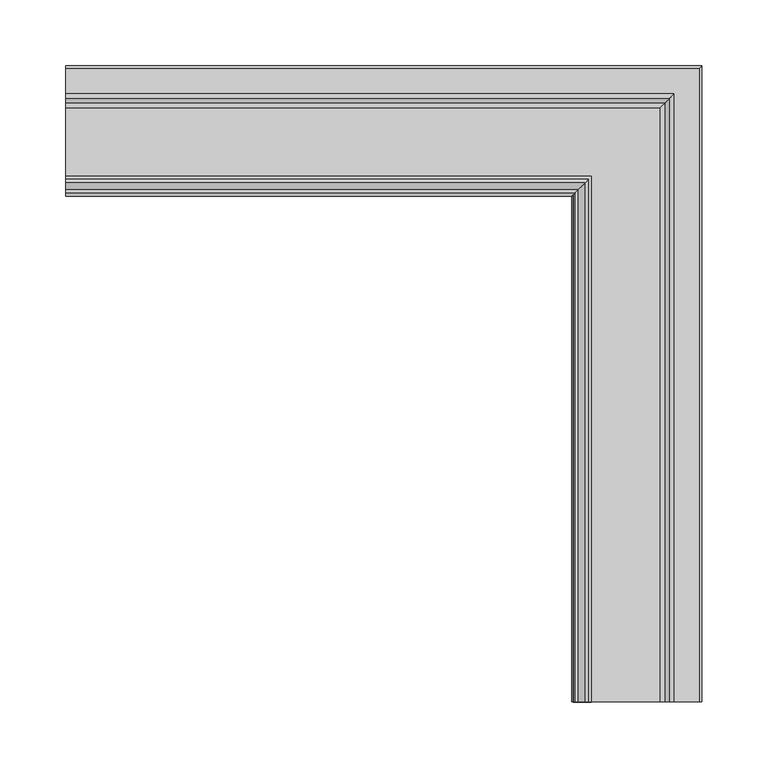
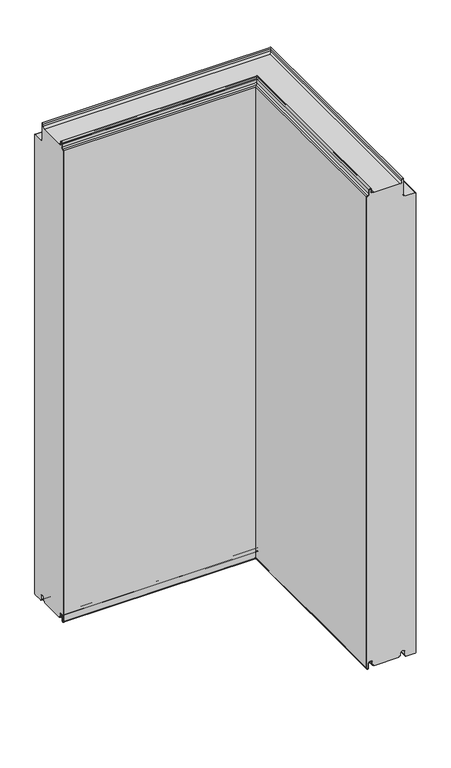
"""IFC4 building model written with IfcOpenShell, lengths in millimetres: plate geometry, Угловой модуль Fronttop : Угловой модуль Fronttop 100/1000."""

from ifc_helpers import new_model, si_unit, frame, origin, place, context, project, spatial, polyline, circle_curve, ellipse_curve, source, transform, mapped, element, save
from ifc_brep_helpers import plane_surface, cylinder_surface, revolved_surface, advanced_brep


def plate_d1008bc7(model_context):
    return source(origin(), model_context, "Body", "AdvancedBrep", [
        advanced_brep(
        [(-234.5, 15.0, 3.0), (-234.5, 13.0, 3.0), (-234.5, 12.0, 4.0), (-234.5, 12.0, 8.0), (-234.5, 3.0, 8.0), (-234.5, 3.0, -0.5), (-234.5, 1.0, -0.5), (-234.5, 1.0, 995.0278643), (-234.5, 2.1111111, 996.0216723), (-234.5, 6.0, 999.5), (-234.5, 6.0, 1008.0), (-234.5, 9.0, 1008.0), (-234.5, 9.0, 1004.0), (-234.5, 13.0, 1000.0), (-234.5, 67.0, 1000.0), (-234.5, 71.0, 1004.0), (-234.5, 71.0, 1008.0), (-234.5, 74.0, 1008.0), (-234.5, 74.0, 975.0), (-234.5, 78.0, 971.0), (-234.5, 97.0, 971.0), (-234.5, 99.0, 969.0), (-234.5, 99.0, 0.0), (-234.5, 97.0, -2.0), (-234.5, 79.0, -2.0), (-234.5, 77.0, 0.0), (-234.5, 77.0, 8.0), (-234.5, 68.0, 8.0), (-234.5, 68.0, 4.0), (-234.5, 67.0, 3.0), (-234.5, 65.0, 3.0), (-234.5, 65.0, 0.0), (-234.5, 15.0, 0.0), (165.0, 15.0, 0.0), (165.0, 15.0, 3.0), (215.0, 65.0, 0.0), (215.0, -384.5, 0.0), (165.0, -384.5, 0.0), (215.0, 65.0, 3.0), (217.0, 67.0, 3.0), (217.0, -384.5, 3.0), (215.0, -384.5, 3.0), (218.0, 68.0, 4.0), (218.0, 68.0, 8.0), (227.0, 77.0, 8.0), (227.0, 77.0, 0.0), (229.0, 79.0, -2.0), (247.0, 97.0, -2.0), (247.0, -384.5, -2.0), (229.0, -384.5, -2.0), (249.0, 99.0, 0.0), (249.0, 99.0, 969.0), (247.0, 97.0, 971.0), (228.0, 78.0, 971.0), (228.0, -384.5, 971.0), (247.0, -384.5, 971.0), (224.0, 74.0, 975.0), (224.0, 74.0, 1008.0), (221.0, 71.0, 1008.0), (221.0, 71.0, 1004.0), (217.0, 67.0, 1000.0), (163.0, 13.0, 1000.0), (163.0, -384.5, 1000.0), (217.0, -384.5, 1000.0), (159.0, 9.0, 1004.0), (159.0, 9.0, 1008.0), (156.0, 6.0, 1008.0), (156.0, 6.0, 999.5), (152.1111111, 2.1111111, 996.021672), (151.0, 1.0, 995.0278643), (151.0, 1.0, -0.5), (153.0, 3.0, -0.5), (153.0, 3.0, 8.0), (162.0, 12.0, 8.0), (162.0, 12.0, 4.0), (163.0, 13.0, 3.0), (165.0, -384.5, 3.0), (163.0, -384.5, 3.0), (218.0, -384.5, 4.0), (218.0, -384.5, 8.0), (227.0, -384.5, 8.0), (227.0, -384.5, 0.0), (249.0, -384.5, 0.0), (249.0, -384.5, 969.0), (224.0, -384.5, 975.0), (224.0, -384.5, 1008.0), (221.0, -384.5, 1008.0), (221.0, -384.5, 1004.0), (159.0, -384.5, 1004.0), (159.0, -384.5, 1008.0), (156.0, -384.5, 1008.0), (156.0, -384.5, 999.5), (152.1111111, -384.5, 996.021672), (151.0, -384.5, 995.0278643), (151.0, -384.5, -0.5), (153.0, -384.5, -0.5), (153.0, -384.5, 8.0), (162.0, -384.5, 8.0), (162.0, -384.5, 4.0)],
        [
            (0, 1),
            (1, 2, circle_curve(frame((-234.5, 13.0, 4.0), z_axis=(-1.0, 0.0, 0.0), x_axis=(0.0, -1.0, 0.0)), 1.0)),
            (2, 3),
            (3, 4, circle_curve(frame((-234.5, 7.5, 8.0), z_axis=(1.0, 0.0, 0.0), x_axis=(0.0, -1.0, 0.0)), 4.5)),
            (4, 5),
            (5, 6, circle_curve(frame((-234.5, 2.0, -0.5), z_axis=(-1.0, 0.0, 0.0), x_axis=(0.0, -1.0, 0.0)), 1.0)),
            (6, 7),
            (7, 8, circle_curve(frame((-234.5, 2.0, 995.0278643), z_axis=(-1.0, 0.0, 0.0), x_axis=(0.0, -1.0, 0.0)), 1.0)),
            (8, 9, circle_curve(frame((-234.5, 2.5, 999.5), z_axis=(1.0, 0.0, 0.0), x_axis=(0.0, -1.0, 0.0)), 3.5)),
            (9, 10),
            (10, 11, circle_curve(frame((-234.5, 7.5, 1008.0), z_axis=(-1.0, 0.0, 0.0), x_axis=(0.0, -1.0, 0.0)), 1.5)),
            (11, 12),
            (12, 13, circle_curve(frame((-234.5, 13.0, 1004.0), z_axis=(1.0, 0.0, 0.0), x_axis=(0.0, -1.0, 0.0)), 4.0)),
            (13, 14),
            (14, 15, circle_curve(frame((-234.5, 67.0, 1004.0), z_axis=(1.0, 0.0, 0.0), x_axis=(0.0, -1.0, 0.0)), 4.0)),
            (15, 16),
            (16, 17, circle_curve(frame((-234.5, 72.5, 1008.0), z_axis=(-1.0, 0.0, 0.0), x_axis=(0.0, -1.0, 0.0)), 1.5)),
            (17, 18),
            (18, 19, circle_curve(frame((-234.5, 78.0, 975.0), z_axis=(1.0, 0.0, 0.0), x_axis=(0.0, -1.0, 0.0)), 4.0)),
            (19, 20),
            (20, 21, circle_curve(frame((-234.5, 97.0, 969.0), z_axis=(-1.0, 0.0, 0.0), x_axis=(0.0, -1.0, 0.0)), 2.0)),
            (21, 22),
            (22, 23, circle_curve(frame((-234.5, 97.0, 0.0), z_axis=(-1.0, 0.0, 0.0), x_axis=(0.0, -1.0, 0.0)), 2.0)),
            (23, 24),
            (24, 25, circle_curve(frame((-234.5, 79.0, 0.0), z_axis=(-1.0, 0.0, 0.0), x_axis=(0.0, -1.0, 0.0)), 2.0)),
            (25, 26),
            (26, 27, circle_curve(frame((-234.5, 72.5, 8.0), z_axis=(1.0, 0.0, 0.0), x_axis=(0.0, -1.0, 0.0)), 4.5)),
            (27, 28),
            (28, 29, circle_curve(frame((-234.5, 67.0, 4.0), z_axis=(-1.0, 0.0, 0.0), x_axis=(0.0, -1.0, 0.0)), 1.0)),
            (29, 30),
            (30, 31),
            (31, 32),
            (32, 0),
            (32, 33),
            (33, 34),
            (34, 0),
            (31, 35),
            (35, 36),
            (36, 37),
            (37, 33),
            (30, 38),
            (38, 35),
            (29, 39),
            (39, 40),
            (40, 41),
            (41, 38),
            (28, 42),
            (42, 39, ellipse_curve(frame((217.0, 67.0, 4.0), z_axis=(-0.7071067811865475, 0.7071067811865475, 0.0), x_axis=(-0.7071067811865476, -0.7071067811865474, 0.0)), 1.4142136, 1.0)),
            (27, 43),
            (43, 42),
            (26, 44),
            (44, 43, ellipse_curve(frame((222.5, 72.5, 8.0), z_axis=(0.7071067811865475, -0.7071067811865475, 0.0), x_axis=(0.7071067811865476, 0.7071067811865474, 0.0)), 6.363961, 4.5)),
            (25, 45),
            (45, 44),
            (24, 46),
            (46, 45, ellipse_curve(frame((229.0, 79.0, 0.0), z_axis=(-0.7071067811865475, 0.7071067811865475, 0.0), x_axis=(-0.7071067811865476, -0.7071067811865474, 0.0)), 2.8284271, 2.0)),
            (23, 47),
            (47, 48),
            (48, 49),
            (49, 46),
            (22, 50),
            (50, 47, ellipse_curve(frame((247.0, 97.0, 0.0), z_axis=(-0.7071067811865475, 0.7071067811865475, 0.0), x_axis=(-0.7071067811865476, -0.7071067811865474, 0.0)), 2.8284271, 2.0)),
            (21, 51),
            (51, 50),
            (20, 52),
            (52, 51, ellipse_curve(frame((247.0, 97.0, 969.0), z_axis=(-0.7071067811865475, 0.7071067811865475, 0.0), x_axis=(-0.7071067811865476, -0.7071067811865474, 0.0)), 2.8284271, 2.0)),
            (19, 53),
            (53, 54),
            (54, 55),
            (55, 52),
            (18, 56),
            (56, 53, ellipse_curve(frame((228.0, 78.0, 975.0), z_axis=(0.7071067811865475, -0.7071067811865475, 0.0), x_axis=(0.7071067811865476, 0.7071067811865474, 0.0)), 5.6568542, 4.0)),
            (17, 57),
            (57, 56),
            (16, 58),
            (58, 57, ellipse_curve(frame((222.5, 72.5, 1008.0), z_axis=(-0.7071067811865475, 0.7071067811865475, 0.0), x_axis=(-0.7071067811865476, -0.7071067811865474, 0.0)), 2.1213203, 1.5)),
            (15, 59),
            (59, 58),
            (14, 60),
            (60, 59, ellipse_curve(frame((217.0, 67.0, 1004.0), z_axis=(0.7071067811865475, -0.7071067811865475, 0.0), x_axis=(0.7071067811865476, 0.7071067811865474, 0.0)), 5.6568542, 4.0)),
            (13, 61),
            (61, 62),
            (62, 63),
            (63, 60),
            (12, 64),
            (64, 61, ellipse_curve(frame((163.0, 13.0, 1004.0), z_axis=(0.7071067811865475, -0.7071067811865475, 0.0), x_axis=(0.7071067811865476, 0.7071067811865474, 0.0)), 5.6568542, 4.0)),
            (11, 65),
            (65, 64),
            (10, 66),
            (66, 65, ellipse_curve(frame((157.5, 7.5, 1008.0), z_axis=(-0.7071067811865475, 0.7071067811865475, 0.0), x_axis=(-0.7071067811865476, -0.7071067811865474, 0.0)), 2.1213204, 1.5)),
            (9, 67),
            (67, 66),
            (8, 68),
            (68, 67, ellipse_curve(frame((152.5, 2.5, 999.5), z_axis=(0.7071067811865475, -0.7071067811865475, 0.0), x_axis=(0.7071067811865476, 0.7071067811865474, 0.0)), 4.9497475, 3.5)),
            (7, 69),
            (69, 68, ellipse_curve(frame((152.0, 2.0, 995.0278643), z_axis=(-0.7071067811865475, 0.7071067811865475, 0.0), x_axis=(-0.7071067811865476, -0.7071067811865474, 0.0)), 1.4142136, 1.0)),
            (6, 70),
            (70, 69),
            (5, 71),
            (71, 70, ellipse_curve(frame((152.0, 2.0, -0.5), z_axis=(-0.7071067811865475, 0.7071067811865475, 0.0), x_axis=(-0.7071067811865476, -0.7071067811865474, 0.0)), 1.4142136, 1.0)),
            (4, 72),
            (72, 71),
            (3, 73),
            (73, 72, ellipse_curve(frame((157.5, 7.5, 8.0), z_axis=(0.7071067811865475, -0.7071067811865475, 0.0), x_axis=(0.7071067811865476, 0.7071067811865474, 0.0)), 6.363961, 4.5)),
            (2, 74),
            (74, 73),
            (1, 75),
            (75, 74, ellipse_curve(frame((163.0, 13.0, 4.0), z_axis=(-0.7071067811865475, 0.7071067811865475, 0.0), x_axis=(-0.7071067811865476, -0.7071067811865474, 0.0)), 1.4142136, 1.0)),
            (34, 76),
            (76, 77),
            (77, 75),
            (76, 37),
            (36, 41),
            (40, 78, circle_curve(frame((217.0, -384.5, 4.0), z_axis=(0.0, -1.0, 0.0), x_axis=(-1.0, 0.0, 0.0)), 1.0)),
            (78, 79),
            (79, 80, circle_curve(frame((222.5, -384.5, 8.0), z_axis=(0.0, 1.0, 0.0), x_axis=(-1.0, 0.0, 0.0)), 4.5)),
            (80, 81),
            (81, 49, circle_curve(frame((229.0, -384.5, 0.0), z_axis=(0.0, -1.0, 0.0), x_axis=(-1.0, 0.0, 0.0)), 2.0)),
            (48, 82, circle_curve(frame((247.0, -384.5, 0.0), z_axis=(0.0, -1.0, 0.0), x_axis=(-1.0, 0.0, 0.0)), 2.0)),
            (82, 83),
            (83, 55, circle_curve(frame((247.0, -384.5, 969.0), z_axis=(0.0, -1.0, 0.0), x_axis=(-1.0, 0.0, 0.0)), 2.0)),
            (54, 84, circle_curve(frame((228.0, -384.5, 975.0), z_axis=(0.0, 1.0, 0.0), x_axis=(-1.0, 0.0, 0.0)), 4.0)),
            (84, 85),
            (85, 86, circle_curve(frame((222.5, -384.5, 1008.0), z_axis=(0.0, -1.0, 0.0), x_axis=(-1.0, 0.0, 0.0)), 1.5)),
            (86, 87),
            (87, 63, circle_curve(frame((217.0, -384.5, 1004.0), z_axis=(0.0, 1.0, 0.0), x_axis=(-1.0, 0.0, 0.0)), 4.0)),
            (62, 88, circle_curve(frame((163.0, -384.5, 1004.0), z_axis=(0.0, 1.0, 0.0), x_axis=(-1.0, 0.0, 0.0)), 4.0)),
            (88, 89),
            (89, 90, circle_curve(frame((157.5, -384.5, 1008.0), z_axis=(0.0, -1.0, 0.0), x_axis=(-1.0, 0.0, 0.0)), 1.5)),
            (90, 91),
            (91, 92, circle_curve(frame((152.5, -384.5, 999.5), z_axis=(0.0, 1.0, 0.0), x_axis=(-1.0, 0.0, 0.0)), 3.5)),
            (92, 93, circle_curve(frame((152.0, -384.5, 995.0278643), z_axis=(0.0, -1.0, 0.0), x_axis=(-1.0, 0.0, 0.0)), 1.0)),
            (93, 94),
            (94, 95, circle_curve(frame((152.0, -384.5, -0.5), z_axis=(0.0, -1.0, 0.0), x_axis=(-1.0, 0.0, 0.0)), 1.0)),
            (95, 96),
            (96, 97, circle_curve(frame((157.5, -384.5, 8.0), z_axis=(0.0, 1.0, 0.0), x_axis=(-1.0, 0.0, 0.0)), 4.5)),
            (97, 98),
            (98, 77, circle_curve(frame((163.0, -384.5, 4.0), z_axis=(0.0, -1.0, 0.0), x_axis=(-1.0, 0.0, 0.0)), 1.0)),
            (42, 78),
            (43, 79),
            (44, 80),
            (45, 81),
            (50, 82),
            (51, 83),
            (56, 84),
            (57, 85),
            (58, 86),
            (59, 87),
            (64, 88),
            (65, 89),
            (66, 90),
            (67, 91),
            (68, 92),
            (69, 93),
            (70, 94),
            (71, 95),
            (72, 96),
            (73, 97),
            (74, 98),
        ],
        [
            plane_surface(frame((-234.5, 0.0, 0.0), z_axis=(-1.0, 0.0, 0.0), x_axis=(0.0, 0.0, 1.0))),
            plane_surface(frame((-234.5, 15.0, 0.0), z_axis=(0.0, -1.0, 0.0), x_axis=(1.0, 0.0, 0.0))),
            plane_surface(frame((-234.5, 65.0, 0.0), z_axis=(0.0, 0.0, -1.0), x_axis=(1.0, 0.0, 0.0))),
            plane_surface(frame((-234.5, 65.0, 3.0), z_axis=(0.0, 1.0, 0.0), x_axis=(1.0, 0.0, 0.0))),
            plane_surface(frame((-234.5, 67.0, 3.0), z_axis=(0.0, 0.0, -1.0), x_axis=(1.0, 0.0, 0.0))),
            cylinder_surface(frame((-234.5, 67.0, 4.0), z_axis=(-1.0, 0.0, 0.0), x_axis=(0.0, -1.0, 0.0)), 1.0),
            plane_surface(frame((-234.5, 68.0, 8.0), z_axis=(0.0, 1.0, 0.0), x_axis=(1.0, 0.0, 0.0))),
            revolved_surface(polyline([(227.0, 68.0, 8.0), (-234.5, 68.0, 8.0)]), (-234.5, 72.5, 8.0), (1.0, 0.0, 0.0)),
            plane_surface(frame((-234.5, 77.0, 0.0), z_axis=(0.0, -1.0, 0.0), x_axis=(1.0, 0.0, 0.0))),
            cylinder_surface(frame((-234.5, 79.0, 0.0), z_axis=(-1.0, 0.0, 0.0), x_axis=(0.0, -1.0, 0.0)), 2.0),
            plane_surface(frame((-234.5, 97.0, -2.0), z_axis=(0.0, 0.0, -1.0), x_axis=(1.0, 0.0, 0.0))),
            cylinder_surface(frame((-234.5, 97.0, 0.0), z_axis=(-1.0, 0.0, 0.0), x_axis=(0.0, -1.0, 0.0)), 2.0),
            plane_surface(frame((-234.5, 99.0, 969.0), z_axis=(0.0, 1.0, 0.0), x_axis=(1.0, 0.0, 0.0))),
            cylinder_surface(frame((-234.5, 97.0, 969.0), z_axis=(-1.0, 0.0, 0.0), x_axis=(0.0, -1.0, 0.0)), 2.0),
            plane_surface(frame((-234.5, 78.0, 971.0), z_axis=(0.0, 0.0, 1.0), x_axis=(1.0, 0.0, 0.0))),
            revolved_surface(polyline([(231.9999999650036, 74.0, 975.0), (-234.5, 74.0, 975.0)]), (-234.5, 78.0, 975.0), (1.0, 0.0, 0.0)),
            plane_surface(frame((-234.5, 74.0, 1008.0), z_axis=(0.0, 1.0, 0.0), x_axis=(1.0, 0.0, 0.0))),
            cylinder_surface(frame((-234.5, 72.5, 1008.0), z_axis=(-1.0, 0.0, 0.0), x_axis=(0.0, -1.0, 0.0)), 1.5),
            plane_surface(frame((-234.5, 71.0, 1004.0), z_axis=(0.0, -1.0, 0.0), x_axis=(1.0, 0.0, 0.0))),
            revolved_surface(polyline([(221.0, 63.0, 1004.0), (-234.5, 63.0, 1004.0)]), (-234.5, 67.0, 1004.0), (1.0, 0.0, 0.0)),
            plane_surface(frame((-234.5, 13.0, 1000.0), z_axis=(0.0, 0.0, 1.0), x_axis=(1.0, 0.0, 0.0))),
            revolved_surface(polyline([(166.9999999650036, 9.0, 1004.0), (-234.5, 9.0, 1004.0)]), (-234.5, 13.0, 1004.0), (1.0, 0.0, 0.0)),
            plane_surface(frame((-234.5, 9.0, 1008.0), z_axis=(0.0, 1.0, 0.0), x_axis=(1.0, 0.0, 0.0))),
            cylinder_surface(frame((-234.5, 7.5, 1008.0), z_axis=(-1.0, 0.0, 0.0), x_axis=(0.0, -1.0, 0.0)), 1.5),
            plane_surface(frame((-234.5, 6.0, 999.5), z_axis=(0.0, -1.0, 0.0), x_axis=(1.0, 0.0, 0.0))),
            revolved_surface(polyline([(156.00000002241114, -1.0, 999.5), (-234.5, -1.0, 999.5)]), (-234.5, 2.5, 999.5), (1.0, 0.0, 0.0)),
            cylinder_surface(frame((-234.5, 2.0, 995.0278643), z_axis=(-1.0, 0.0, 0.0), x_axis=(0.0, -1.0, 0.0)), 1.0),
            plane_surface(frame((-234.5, 1.0, -0.5), z_axis=(0.0, -1.0, 0.0), x_axis=(1.0, 0.0, 0.0))),
            cylinder_surface(frame((-234.5, 2.0, -0.5), z_axis=(-1.0, 0.0, 0.0), x_axis=(0.0, -1.0, 0.0)), 1.0),
            plane_surface(frame((-234.5, 3.0, 8.0), z_axis=(0.0, 1.0, 0.0), x_axis=(1.0, 0.0, 0.0))),
            revolved_surface(polyline([(162.0, 3.0, 8.0), (-234.5, 3.0, 8.0)]), (-234.5, 7.5, 8.0), (1.0, 0.0, 0.0)),
            plane_surface(frame((-234.5, 12.0, 4.0), z_axis=(0.0, -1.0, 0.0), x_axis=(1.0, 0.0, 0.0))),
            cylinder_surface(frame((-234.5, 13.0, 4.0), z_axis=(-1.0, 0.0, 0.0), x_axis=(0.0, -1.0, 0.0)), 1.0),
            plane_surface(frame((-234.5, 15.0, 3.0), z_axis=(0.0, 0.0, -1.0), x_axis=(1.0, 0.0, 0.0))),
            plane_surface(frame((150.0, -384.5, 0.0), z_axis=(0.0, -1.0, 0.0), x_axis=(0.0, 0.0, 1.0))),
            plane_surface(frame((165.0, 15.0, 0.0), z_axis=(-1.0, 0.0, 0.0), x_axis=(0.0, -1.0, 0.0))),
            plane_surface(frame((215.0, 65.0, 3.0), z_axis=(1.0, 0.0, 0.0), x_axis=(0.0, -1.0, 0.0))),
            cylinder_surface(frame((217.0, 0.0, 4.0), z_axis=(0.0, 1.0, 0.0), x_axis=(-1.0, 0.0, 0.0)), 1.0),
            plane_surface(frame((218.0, 68.0, 8.0), z_axis=(1.0, 0.0, 0.0), x_axis=(0.0, -1.0, 0.0))),
            revolved_surface(polyline([(218.0, -384.5, 8.0), (218.0, 77.0, 8.0)]), (222.5, 0.0, 8.0), (0.0, -1.0, 0.0)),
            plane_surface(frame((227.0, 77.0, 0.0), z_axis=(-1.0, 0.0, 0.0), x_axis=(0.0, -1.0, 0.0))),
            cylinder_surface(frame((229.0, 0.0, 0.0), z_axis=(0.0, 1.0, 0.0), x_axis=(-1.0, 0.0, 0.0)), 2.0),
            cylinder_surface(frame((247.0, 0.0, 0.0), z_axis=(0.0, 1.0, 0.0), x_axis=(-1.0, 0.0, 0.0)), 2.0),
            plane_surface(frame((249.0, 99.0, 969.0), z_axis=(1.0, 0.0, 0.0), x_axis=(0.0, -1.0, 0.0))),
            cylinder_surface(frame((247.0, 0.0, 969.0), z_axis=(0.0, 1.0, 0.0), x_axis=(-1.0, 0.0, 0.0)), 2.0),
            revolved_surface(polyline([(224.0, -384.5, 975.0), (224.0, 81.9999999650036, 975.0)]), (228.0, 0.0, 975.0), (0.0, -1.0, 0.0)),
            plane_surface(frame((224.0, 74.0, 1008.0), z_axis=(1.0, 0.0, 0.0), x_axis=(0.0, -1.0, 0.0))),
            cylinder_surface(frame((222.5, 0.0, 1008.0), z_axis=(0.0, 1.0, 0.0), x_axis=(-1.0, 0.0, 0.0)), 1.5),
            plane_surface(frame((221.0, 71.0, 1004.0), z_axis=(-1.0, 0.0, 0.0), x_axis=(0.0, -1.0, 0.0))),
            revolved_surface(polyline([(213.0, -384.5, 1004.0), (213.0, 71.0, 1004.0)]), (217.0, 0.0, 1004.0), (0.0, -1.0, 0.0)),
            revolved_surface(polyline([(159.0, -384.5, 1004.0), (159.0, 16.999999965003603, 1004.0)]), (163.0, 0.0, 1004.0), (0.0, -1.0, 0.0)),
            plane_surface(frame((159.0, 9.0, 1008.0), z_axis=(1.0, 0.0, 0.0), x_axis=(0.0, -1.0, 0.0))),
            cylinder_surface(frame((157.5, 0.0, 1008.0), z_axis=(0.0, 1.0, 0.0), x_axis=(-1.0, 0.0, 0.0)), 1.5),
            plane_surface(frame((156.0, 6.0, 999.5), z_axis=(-1.0, 0.0, 0.0), x_axis=(0.0, -1.0, 0.0))),
            revolved_surface(polyline([(149.0, -384.5, 999.5), (149.0, 6.000000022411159, 999.5)]), (152.5, 0.0, 999.5), (0.0, -1.0, 0.0)),
            cylinder_surface(frame((152.0, 0.0, 995.0278643), z_axis=(0.0, 1.0, 0.0), x_axis=(-1.0, 0.0, 0.0)), 1.0),
            plane_surface(frame((151.0, 1.0, -0.5), z_axis=(-1.0, 0.0, 0.0), x_axis=(0.0, -1.0, 0.0))),
            cylinder_surface(frame((152.0, 0.0, -0.5), z_axis=(0.0, 1.0, 0.0), x_axis=(-1.0, 0.0, 0.0)), 1.0),
            plane_surface(frame((153.0, 3.0, 8.0), z_axis=(1.0, 0.0, 0.0), x_axis=(0.0, -1.0, 0.0))),
            revolved_surface(polyline([(153.0, -384.5, 8.0), (153.0, 12.0, 8.0)]), (157.5, 0.0, 8.0), (0.0, -1.0, 0.0)),
            plane_surface(frame((162.0, 12.0, 4.0), z_axis=(-1.0, 0.0, 0.0), x_axis=(0.0, -1.0, 0.0))),
            cylinder_surface(frame((163.0, 0.0, 4.0), z_axis=(0.0, 1.0, 0.0), x_axis=(-1.0, 0.0, 0.0)), 1.0),
        ],
        [
            (0, [[1, 2, 3, 4, 5, 6, 7, 8, 9, 10, 11, 12, 13, 14, 15, 16, 17, 18, 19, 20, 21, 22, 23, 24, 25, 26, 27, 28, 29, 30, 31, 32, 33]]),
            (1, [[-33, 34, 35, 36]]),
            (2, [[-32, 37, 38, 39, 40, -34]]),
            (3, [[-31, 41, 42, -37]]),
            (4, [[-30, 43, 44, 45, 46, -41]]),
            (5, [[-29, 47, 48, -43]]),
            (6, [[-28, 49, 50, -47]]),
            (7, [[-27, 51, 52, -49]]),
            (8, [[-26, 53, 54, -51]]),
            (9, [[-25, 55, 56, -53]]),
            (10, [[-24, 57, 58, 59, 60, -55]]),
            (11, [[-23, 61, 62, -57]]),
            (12, [[-22, 63, 64, -61]]),
            (13, [[-21, 65, 66, -63]]),
            (14, [[-20, 67, 68, 69, 70, -65]]),
            (15, [[-19, 71, 72, -67]]),
            (16, [[-18, 73, 74, -71]]),
            (17, [[-17, 75, 76, -73]]),
            (18, [[-16, 77, 78, -75]]),
            (19, [[-15, 79, 80, -77]]),
            (20, [[-14, 81, 82, 83, 84, -79]]),
            (21, [[-13, 85, 86, -81]]),
            (22, [[-12, 87, 88, -85]]),
            (23, [[-11, 89, 90, -87]]),
            (24, [[-10, 91, 92, -89]]),
            (25, [[-9, 93, 94, -91]]),
            (26, [[-8, 95, 96, -93]]),
            (27, [[-7, 97, 98, -95]]),
            (28, [[-6, 99, 100, -97]]),
            (29, [[-5, 101, 102, -99]]),
            (30, [[-4, 103, 104, -101]]),
            (31, [[-3, 105, 106, -103]]),
            (32, [[-2, 107, 108, -105]]),
            (33, [[-1, -36, 109, 110, 111, -107]]),
            (34, [[112, -39, 113, -45, 114, 115, 116, 117, 118, -59, 119, 120, 121, -69, 122, 123, 124, 125, 126, -83, 127, 128, 129, 130, 131, 132, 133, 134, 135, 136, 137, 138, -110]]),
            (35, [[-35, -40, -112, -109]]),
            (36, [[-42, -46, -113, -38]]),
            (37, [[-48, 139, -114, -44]]),
            (38, [[-50, 140, -115, -139]]),
            (39, [[-52, 141, -116, -140]]),
            (40, [[-54, 142, -117, -141]]),
            (41, [[-56, -60, -118, -142]]),
            (42, [[-62, 143, -119, -58]]),
            (43, [[-64, 144, -120, -143]]),
            (44, [[-66, -70, -121, -144]]),
            (45, [[-72, 145, -122, -68]]),
            (46, [[-74, 146, -123, -145]]),
            (47, [[-76, 147, -124, -146]]),
            (48, [[-78, 148, -125, -147]]),
            (49, [[-80, -84, -126, -148]]),
            (50, [[-86, 149, -127, -82]]),
            (51, [[-88, 150, -128, -149]]),
            (52, [[-90, 151, -129, -150]]),
            (53, [[-92, 152, -130, -151]]),
            (54, [[-94, 153, -131, -152]]),
            (55, [[-96, 154, -132, -153]]),
            (56, [[-98, 155, -133, -154]]),
            (57, [[-100, 156, -134, -155]]),
            (58, [[-102, 157, -135, -156]]),
            (59, [[-104, 158, -136, -157]]),
            (60, [[-106, 159, -137, -158]]),
            (61, [[-108, -111, -138, -159]]),
        ],
    ),
        advanced_brep(
        [(-234.5, 13.0, 1001.0), (-234.5, 15.0, 1001.0), (-234.5, 15.0, 1000.0), (-234.5, 13.0, 1000.0), (-234.5, 9.0, 1004.0), (-234.5, 9.0, 1008.0), (-234.5, 6.0, 1008.0), (-234.5, 6.0, 999.5), (-234.5, 2.1134897, 996.0214069), (-234.5, 1.0, 995.0), (-234.5, 1.0, -0.5), (-234.5, 3.0, -0.5), (-234.5, 3.0, 8.0), (-234.5, 12.0, 8.0), (-234.5, 12.0, 4.0), (-234.5, 13.0, 3.0), (-234.5, 15.0, 3.0), (-234.5, 15.0, 2.0), (-234.5, 13.0, 2.0), (-234.5, 11.0, 4.0), (-234.5, 11.0, 8.0), (-234.5, 4.0, 8.0), (-234.5, 4.0, -0.5), (-234.5, 0.0, -0.5), (-234.5, 0.0, 995.0), (-234.5, 2.220863, 996.9877675), (-234.5, 5.0, 999.5), (-234.5, 5.0, 1008.0), (-234.5, 10.0, 1008.0), (-234.5, 10.0, 1004.0), (163.0, 13.0, 1001.0), (163.0, -384.5, 1001.0), (165.0, -384.5, 1001.0), (165.0, 15.0, 1001.0), (165.0, 15.0, 1000.0), (165.0, -384.5, 1000.0), (163.0, -384.5, 1000.0), (163.0, 13.0, 1000.0), (159.0, 9.0, 1004.0), (159.0, 9.0, 1008.0), (156.0, 6.0, 1008.0), (156.0, 6.0, 999.5), (152.1134897, 2.1134897, 996.0214069), (151.0, 1.0, 995.0), (151.0, 1.0, -0.5), (153.0, 3.0, -0.5), (153.0, 3.0, 8.0), (162.0, 12.0, 8.0), (162.0, 12.0, 4.0), (163.0, 13.0, 3.0), (163.0, -384.5, 3.0), (165.0, -384.5, 3.0), (165.0, 15.0, 3.0), (165.0, 15.0, 2.0), (165.0, -384.5, 2.0), (163.0, -384.5, 2.0), (163.0, 13.0, 2.0), (161.0, 11.0, 4.0), (161.0, 11.0, 8.0), (154.0, 4.0, 8.0), (154.0, 4.0, -0.5), (150.0, 0.0, -0.5), (150.0, 0.0, 995.0), (152.220863, 2.220863, 996.9877675), (155.0, 5.0, 999.5), (155.0, 5.0, 1008.0), (160.0, 10.0, 1008.0), (160.0, 10.0, 1004.0), (160.0, -384.5, 1004.0), (160.0, -384.5, 1008.0), (155.0, -384.5, 1008.0), (155.0, -384.5, 999.5), (152.2239212, -384.5, 997.0152907), (150.0, -384.5, 995.0), (150.0, -384.5, -0.5), (154.0, -384.5, -0.5), (154.0, -384.5, 8.0), (161.0, -384.5, 8.0), (161.0, -384.5, 4.0), (162.0, -384.5, 4.0), (162.0, -384.5, 8.0), (153.0, -384.5, 8.0), (153.0, -384.5, -0.5), (151.0, -384.5, -0.5), (151.0, -384.5, 995.0), (152.1104315, -384.5, 995.9938837), (156.0, -384.5, 999.5), (156.0, -384.5, 1008.0), (159.0, -384.5, 1008.0), (159.0, -384.5, 1004.0)],
        [
            (0, 1),
            (1, 2),
            (2, 3),
            (3, 4, circle_curve(frame((-234.5, 13.0, 1004.0), z_axis=(-1.0, 0.0, 0.0), x_axis=(0.0, -1.0, 0.0)), 4.0)),
            (4, 5),
            (5, 6, circle_curve(frame((-234.5, 7.5, 1008.0), z_axis=(1.0, 0.0, 0.0), x_axis=(0.0, -1.0, 0.0)), 1.5)),
            (6, 7),
            (7, 8, circle_curve(frame((-234.5, 2.5, 999.5), z_axis=(-1.0, 0.0, 0.0), x_axis=(0.0, -1.0, 0.0)), 3.5)),
            (8, 9, circle_curve(frame((-234.5, 2.0, 995.0), z_axis=(1.0, 0.0, 0.0), x_axis=(0.0, -1.0, 0.0)), 1.0)),
            (9, 10),
            (10, 11, circle_curve(frame((-234.5, 2.0, -0.5), z_axis=(1.0, 0.0, 0.0), x_axis=(0.0, -1.0, 0.0)), 1.0)),
            (11, 12),
            (12, 13, circle_curve(frame((-234.5, 7.5, 8.0), z_axis=(-1.0, 0.0, 0.0), x_axis=(0.0, -1.0, 0.0)), 4.5)),
            (13, 14),
            (14, 15, circle_curve(frame((-234.5, 13.0, 4.0), z_axis=(1.0, 0.0, 0.0), x_axis=(0.0, -1.0, 0.0)), 1.0)),
            (15, 16),
            (16, 17),
            (17, 18),
            (18, 19, circle_curve(frame((-234.5, 13.0, 4.0), z_axis=(-1.0, 0.0, 0.0), x_axis=(0.0, -1.0, 0.0)), 2.0)),
            (19, 20),
            (20, 21, circle_curve(frame((-234.5, 7.5, 8.0), z_axis=(1.0, 0.0, 0.0), x_axis=(0.0, -1.0, 0.0)), 3.5)),
            (21, 22),
            (22, 23, circle_curve(frame((-234.5, 2.0, -0.5), z_axis=(-1.0, 0.0, 0.0), x_axis=(0.0, -1.0, 0.0)), 2.0)),
            (23, 24),
            (24, 25, circle_curve(frame((-234.5, 2.0, 995.0), z_axis=(-1.0, 0.0, 0.0), x_axis=(0.0, -1.0, 0.0)), 2.0)),
            (25, 26, circle_curve(frame((-234.5, 2.5, 999.5), z_axis=(1.0, 0.0, 0.0), x_axis=(0.0, -1.0, 0.0)), 2.5)),
            (26, 27),
            (27, 28, circle_curve(frame((-234.5, 7.5, 1008.0), z_axis=(-1.0, 0.0, 0.0), x_axis=(0.0, -1.0, 0.0)), 2.5)),
            (28, 29),
            (29, 0, circle_curve(frame((-234.5, 13.0, 1004.0), z_axis=(1.0, 0.0, 0.0), x_axis=(0.0, -1.0, 0.0)), 3.0)),
            (0, 30),
            (30, 31),
            (31, 32),
            (32, 33),
            (33, 1),
            (33, 34),
            (34, 2),
            (34, 35),
            (35, 36),
            (36, 37),
            (37, 3),
            (37, 38, ellipse_curve(frame((163.0, 13.0, 1004.0), z_axis=(-0.7071067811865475, 0.7071067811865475, 0.0), x_axis=(-0.7071067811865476, -0.7071067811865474, 0.0)), 5.6568542, 4.0)),
            (38, 4),
            (38, 39),
            (39, 5),
            (39, 40, ellipse_curve(frame((157.5, 7.5, 1008.0), z_axis=(0.7071067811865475, -0.7071067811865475, 0.0), x_axis=(0.7071067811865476, 0.7071067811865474, 0.0)), 2.1213204, 1.5)),
            (40, 6),
            (40, 41),
            (41, 7),
            (41, 42, ellipse_curve(frame((152.5, 2.5, 999.5), z_axis=(-0.7071067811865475, 0.7071067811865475, 0.0), x_axis=(-0.7071067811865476, -0.7071067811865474, 0.0)), 4.9497475, 3.5)),
            (42, 8),
            (42, 43, ellipse_curve(frame((152.0, 2.0, 995.0), z_axis=(0.7071067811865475, -0.7071067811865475, 0.0), x_axis=(0.7071067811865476, 0.7071067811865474, 0.0)), 1.4142136, 1.0)),
            (43, 9),
            (43, 44),
            (44, 10),
            (44, 45, ellipse_curve(frame((152.0, 2.0, -0.5), z_axis=(0.7071067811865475, -0.7071067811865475, 0.0), x_axis=(0.7071067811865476, 0.7071067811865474, 0.0)), 1.4142136, 1.0)),
            (45, 11),
            (45, 46),
            (46, 12),
            (46, 47, ellipse_curve(frame((157.5, 7.5, 8.0), z_axis=(-0.7071067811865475, 0.7071067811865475, 0.0), x_axis=(-0.7071067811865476, -0.7071067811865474, 0.0)), 6.363961, 4.5)),
            (47, 13),
            (47, 48),
            (48, 14),
            (48, 49, ellipse_curve(frame((163.0, 13.0, 4.0), z_axis=(0.7071067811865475, -0.7071067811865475, 0.0), x_axis=(0.7071067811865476, 0.7071067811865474, 0.0)), 1.4142136, 1.0)),
            (49, 15),
            (49, 50),
            (50, 51),
            (51, 52),
            (52, 16),
            (52, 53),
            (53, 17),
            (53, 54),
            (54, 55),
            (55, 56),
            (56, 18),
            (56, 57, ellipse_curve(frame((163.0, 13.0, 4.0), z_axis=(-0.7071067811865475, 0.7071067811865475, 0.0), x_axis=(-0.7071067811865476, -0.7071067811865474, 0.0)), 2.8284271, 2.0)),
            (57, 19),
            (57, 58),
            (58, 20),
            (58, 59, ellipse_curve(frame((157.5, 7.5, 8.0), z_axis=(0.7071067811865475, -0.7071067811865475, 0.0), x_axis=(0.7071067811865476, 0.7071067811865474, 0.0)), 4.9497475, 3.5)),
            (59, 21),
            (59, 60),
            (60, 22),
            (60, 61, ellipse_curve(frame((152.0, 2.0, -0.5), z_axis=(-0.7071067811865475, 0.7071067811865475, 0.0), x_axis=(-0.7071067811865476, -0.7071067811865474, 0.0)), 2.8284271, 2.0)),
            (61, 23),
            (61, 62),
            (62, 24),
            (62, 63, ellipse_curve(frame((152.0, 2.0, 995.0), z_axis=(-0.7071067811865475, 0.7071067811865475, 0.0), x_axis=(-0.7071067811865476, -0.7071067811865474, 0.0)), 2.8284271, 2.0)),
            (63, 25),
            (63, 64, ellipse_curve(frame((152.5, 2.5, 999.5), z_axis=(0.7071067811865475, -0.7071067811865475, 0.0), x_axis=(0.7071067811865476, 0.7071067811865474, 0.0)), 3.5355339, 2.5)),
            (64, 26),
            (64, 65),
            (65, 27),
            (65, 66, ellipse_curve(frame((157.5, 7.5, 1008.0), z_axis=(-0.7071067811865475, 0.7071067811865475, 0.0), x_axis=(-0.7071067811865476, -0.7071067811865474, 0.0)), 3.5355339, 2.5)),
            (66, 28),
            (66, 67),
            (67, 29),
            (67, 30, ellipse_curve(frame((163.0, 13.0, 1004.0), z_axis=(0.7071067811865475, -0.7071067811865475, 0.0), x_axis=(0.7071067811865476, 0.7071067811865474, 0.0)), 4.2426407, 3.0)),
            (31, 68, circle_curve(frame((163.0, -384.5, 1004.0), z_axis=(0.0, 1.0, 0.0), x_axis=(-1.0, 0.0, 0.0)), 3.0)),
            (68, 69),
            (69, 70, circle_curve(frame((157.5, -384.5, 1008.0), z_axis=(0.0, -1.0, 0.0), x_axis=(-1.0, 0.0, 0.0)), 2.5)),
            (70, 71),
            (71, 72, circle_curve(frame((152.5, -384.5, 999.5), z_axis=(0.0, 1.0, 0.0), x_axis=(-1.0, 0.0, 0.0)), 2.5)),
            (72, 73, circle_curve(frame((152.0, -384.5, 995.0), z_axis=(0.0, -1.0, 0.0), x_axis=(-1.0, 0.0, 0.0)), 2.0)),
            (73, 74),
            (74, 75, circle_curve(frame((152.0, -384.5, -0.5), z_axis=(0.0, -1.0, 0.0), x_axis=(-1.0, 0.0, 0.0)), 2.0)),
            (75, 76),
            (76, 77, circle_curve(frame((157.5, -384.5, 8.0), z_axis=(0.0, 1.0, 0.0), x_axis=(-1.0, 0.0, 0.0)), 3.5)),
            (77, 78),
            (78, 55, circle_curve(frame((163.0, -384.5, 4.0), z_axis=(0.0, -1.0, 0.0), x_axis=(-1.0, 0.0, 0.0)), 2.0)),
            (54, 51),
            (50, 79, circle_curve(frame((163.0, -384.5, 4.0), z_axis=(0.0, 1.0, 0.0), x_axis=(-1.0, 0.0, 0.0)), 1.0)),
            (79, 80),
            (80, 81, circle_curve(frame((157.5, -384.5, 8.0), z_axis=(0.0, -1.0, 0.0), x_axis=(-1.0, 0.0, 0.0)), 4.5)),
            (81, 82),
            (82, 83, circle_curve(frame((152.0, -384.5, -0.5), z_axis=(0.0, 1.0, 0.0), x_axis=(-1.0, 0.0, 0.0)), 1.0)),
            (83, 84),
            (84, 85, circle_curve(frame((152.0, -384.5, 995.0), z_axis=(0.0, 1.0, 0.0), x_axis=(-1.0, 0.0, 0.0)), 1.0)),
            (85, 86, circle_curve(frame((152.5, -384.5, 999.5), z_axis=(0.0, -1.0, 0.0), x_axis=(-1.0, 0.0, 0.0)), 3.5)),
            (86, 87),
            (87, 88, circle_curve(frame((157.5, -384.5, 1008.0), z_axis=(0.0, 1.0, 0.0), x_axis=(-1.0, 0.0, 0.0)), 1.5)),
            (88, 89),
            (89, 36, circle_curve(frame((163.0, -384.5, 1004.0), z_axis=(0.0, -1.0, 0.0), x_axis=(-1.0, 0.0, 0.0)), 4.0)),
            (35, 32),
            (89, 38),
            (88, 39),
            (87, 40),
            (86, 41),
            (85, 42),
            (84, 43),
            (83, 44),
            (82, 45),
            (81, 46),
            (80, 47),
            (79, 48),
            (78, 57),
            (77, 58),
            (76, 59),
            (75, 60),
            (74, 61),
            (73, 62),
            (72, 63),
            (71, 64),
            (70, 65),
            (69, 66),
            (68, 67),
        ],
        [
            plane_surface(frame((-234.5, 0.0, 0.0), z_axis=(-1.0, 0.0, 0.0), x_axis=(0.0, 0.0, 1.0))),
            plane_surface(frame((-234.5, 13.0, 1001.0), z_axis=(0.0, 0.0, 1.0), x_axis=(1.0, 0.0, 0.0))),
            plane_surface(frame((-234.5, 15.0, 1001.0), z_axis=(0.0, 1.0, 0.0), x_axis=(1.0, 0.0, 0.0))),
            plane_surface(frame((-234.5, 15.0, 1000.0), z_axis=(0.0, 0.0, -1.0), x_axis=(1.0, 0.0, 0.0))),
            cylinder_surface(frame((-234.5, 13.0, 1004.0), z_axis=(-1.0, 0.0, 0.0), x_axis=(0.0, -1.0, 0.0)), 4.0),
            plane_surface(frame((-234.5, 9.0, 1004.0), z_axis=(0.0, -1.0, 0.0), x_axis=(1.0, 0.0, 0.0))),
            revolved_surface(polyline([(159.00000003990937, 6.0, 1008.0), (-234.5, 6.0, 1008.0)]), (-234.5, 7.5, 1008.0), (1.0, 0.0, 0.0)),
            plane_surface(frame((-234.5, 6.0, 1008.0), z_axis=(0.0, 1.0, 0.0), x_axis=(1.0, 0.0, 0.0))),
            cylinder_surface(frame((-234.5, 2.5, 999.5), z_axis=(-1.0, 0.0, 0.0), x_axis=(0.0, -1.0, 0.0)), 3.5),
            revolved_surface(polyline([(153.00000002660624, 1.0, 995.0), (-234.5, 1.0, 995.0)]), (-234.5, 2.0, 995.0), (1.0, 0.0, 0.0)),
            plane_surface(frame((-234.5, 1.0, 995.0), z_axis=(0.0, 1.0, 0.0), x_axis=(1.0, 0.0, 0.0))),
            revolved_surface(polyline([(153.00000002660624, 1.0, -0.5), (-234.5, 1.0, -0.5)]), (-234.5, 2.0, -0.5), (1.0, 0.0, 0.0)),
            plane_surface(frame((-234.5, 3.0, -0.5), z_axis=(0.0, -1.0, 0.0), x_axis=(1.0, 0.0, 0.0))),
            cylinder_surface(frame((-234.5, 7.5, 8.0), z_axis=(-1.0, 0.0, 0.0), x_axis=(0.0, -1.0, 0.0)), 4.5),
            plane_surface(frame((-234.5, 12.0, 8.0), z_axis=(0.0, 1.0, 0.0), x_axis=(1.0, 0.0, 0.0))),
            revolved_surface(polyline([(164.00000002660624, 12.0, 4.0), (-234.5, 12.0, 4.0)]), (-234.5, 13.0, 4.0), (1.0, 0.0, 0.0)),
            plane_surface(frame((-234.5, 13.0, 3.0), z_axis=(0.0, 0.0, 1.0), x_axis=(1.0, 0.0, 0.0))),
            plane_surface(frame((-234.5, 15.0, 3.0), z_axis=(0.0, 1.0, 0.0), x_axis=(1.0, 0.0, 0.0))),
            plane_surface(frame((-234.5, 15.0, 2.0), z_axis=(0.0, 0.0, -1.0), x_axis=(1.0, 0.0, 0.0))),
            cylinder_surface(frame((-234.5, 13.0, 4.0), z_axis=(-1.0, 0.0, 0.0), x_axis=(0.0, -1.0, 0.0)), 2.0),
            plane_surface(frame((-234.5, 11.0, 4.0), z_axis=(0.0, -1.0, 0.0), x_axis=(1.0, 0.0, 0.0))),
            revolved_surface(polyline([(161.00000002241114, 4.0, 8.0), (-234.5, 4.0, 8.0)]), (-234.5, 7.5, 8.0), (1.0, 0.0, 0.0)),
            plane_surface(frame((-234.5, 4.0, 8.0), z_axis=(0.0, 1.0, 0.0), x_axis=(1.0, 0.0, 0.0))),
            cylinder_surface(frame((-234.5, 2.0, -0.5), z_axis=(-1.0, 0.0, 0.0), x_axis=(0.0, -1.0, 0.0)), 2.0),
            plane_surface(frame((-234.5, 0.0, -0.5), z_axis=(0.0, -1.0, 0.0), x_axis=(1.0, 0.0, 0.0))),
            cylinder_surface(frame((-234.5, 2.0, 995.0), z_axis=(-1.0, 0.0, 0.0), x_axis=(0.0, -1.0, 0.0)), 2.0),
            revolved_surface(polyline([(155.0, 0.0, 999.5), (-234.5, 0.0, 999.5)]), (-234.5, 2.5, 999.5), (1.0, 0.0, 0.0)),
            plane_surface(frame((-234.5, 5.0, 999.5), z_axis=(0.0, -1.0, 0.0), x_axis=(1.0, 0.0, 0.0))),
            cylinder_surface(frame((-234.5, 7.5, 1008.0), z_axis=(-1.0, 0.0, 0.0), x_axis=(0.0, -1.0, 0.0)), 2.5),
            plane_surface(frame((-234.5, 10.0, 1008.0), z_axis=(0.0, 1.0, 0.0), x_axis=(1.0, 0.0, 0.0))),
            revolved_surface(polyline([(166.00000000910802, 10.0, 1004.0), (-234.5, 10.0, 1004.0)]), (-234.5, 13.0, 1004.0), (1.0, 0.0, 0.0)),
            plane_surface(frame((150.0, -384.5, 0.0), z_axis=(0.0, -1.0, 0.0), x_axis=(0.0, 0.0, 1.0))),
            plane_surface(frame((165.0, 15.0, 1001.0), z_axis=(1.0, 0.0, 0.0), x_axis=(0.0, -1.0, 0.0))),
            cylinder_surface(frame((163.0, 0.0, 1004.0), z_axis=(0.0, 1.0, 0.0), x_axis=(-1.0, 0.0, 0.0)), 4.0),
            plane_surface(frame((159.0, 9.0, 1004.0), z_axis=(-1.0, 0.0, 0.0), x_axis=(0.0, -1.0, 0.0))),
            revolved_surface(polyline([(156.0, -384.5, 1008.0), (156.0, 9.00000003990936, 1008.0)]), (157.5, 0.0, 1008.0), (0.0, -1.0, 0.0)),
            plane_surface(frame((156.0, 6.0, 1008.0), z_axis=(1.0, 0.0, 0.0), x_axis=(0.0, -1.0, 0.0))),
            cylinder_surface(frame((152.5, 0.0, 999.5), z_axis=(0.0, 1.0, 0.0), x_axis=(-1.0, 0.0, 0.0)), 3.5),
            revolved_surface(polyline([(151.0, -384.5, 995.0), (151.0, 3.0000000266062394, 995.0)]), (152.0, 0.0, 995.0), (0.0, -1.0, 0.0)),
            plane_surface(frame((151.0, 1.0, 995.0), z_axis=(1.0, 0.0, 0.0), x_axis=(0.0, -1.0, 0.0))),
            revolved_surface(polyline([(151.0, -384.5, -0.5), (151.0, 3.0000000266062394, -0.5)]), (152.0, 0.0, -0.5), (0.0, -1.0, 0.0)),
            plane_surface(frame((153.0, 3.0, -0.5), z_axis=(-1.0, 0.0, 0.0), x_axis=(0.0, -1.0, 0.0))),
            cylinder_surface(frame((157.5, 0.0, 8.0), z_axis=(0.0, 1.0, 0.0), x_axis=(-1.0, 0.0, 0.0)), 4.5),
            plane_surface(frame((162.0, 12.0, 8.0), z_axis=(1.0, 0.0, 0.0), x_axis=(0.0, -1.0, 0.0))),
            revolved_surface(polyline([(162.0, -384.5, 4.0), (162.0, 14.000000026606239, 4.0)]), (163.0, 0.0, 4.0), (0.0, -1.0, 0.0)),
            plane_surface(frame((165.0, 15.0, 3.0), z_axis=(1.0, 0.0, 0.0), x_axis=(0.0, -1.0, 0.0))),
            cylinder_surface(frame((163.0, 0.0, 4.0), z_axis=(0.0, 1.0, 0.0), x_axis=(-1.0, 0.0, 0.0)), 2.0),
            plane_surface(frame((161.0, 11.0, 4.0), z_axis=(-1.0, 0.0, 0.0), x_axis=(0.0, -1.0, 0.0))),
            revolved_surface(polyline([(154.0, -384.5, 8.0), (154.0, 11.00000002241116, 8.0)]), (157.5, 0.0, 8.0), (0.0, -1.0, 0.0)),
            plane_surface(frame((154.0, 4.0, 8.0), z_axis=(1.0, 0.0, 0.0), x_axis=(0.0, -1.0, 0.0))),
            cylinder_surface(frame((152.0, 0.0, -0.5), z_axis=(0.0, 1.0, 0.0), x_axis=(-1.0, 0.0, 0.0)), 2.0),
            plane_surface(frame((150.0, 0.0, -0.5), z_axis=(-1.0, 0.0, 0.0), x_axis=(0.0, -1.0, 0.0))),
            cylinder_surface(frame((152.0, 0.0, 995.0), z_axis=(0.0, 1.0, 0.0), x_axis=(-1.0, 0.0, 0.0)), 2.0),
            revolved_surface(polyline([(150.0, -384.5, 999.5), (150.0, 5.0, 999.5)]), (152.5, 0.0, 999.5), (0.0, -1.0, 0.0)),
            plane_surface(frame((155.0, 5.0, 999.5), z_axis=(-1.0, 0.0, 0.0), x_axis=(0.0, -1.0, 0.0))),
            cylinder_surface(frame((157.5, 0.0, 1008.0), z_axis=(0.0, 1.0, 0.0), x_axis=(-1.0, 0.0, 0.0)), 2.5),
            plane_surface(frame((160.0, 10.0, 1008.0), z_axis=(1.0, 0.0, 0.0), x_axis=(0.0, -1.0, 0.0))),
            revolved_surface(polyline([(160.0, -384.5, 1004.0), (160.0, 16.00000000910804, 1004.0)]), (163.0, 0.0, 1004.0), (0.0, -1.0, 0.0)),
        ],
        [
            (0, [[1, 2, 3, 4, 5, 6, 7, 8, 9, 10, 11, 12, 13, 14, 15, 16, 17, 18, 19, 20, 21, 22, 23, 24, 25, 26, 27, 28, 29, 30]]),
            (1, [[-1, 31, 32, 33, 34, 35]]),
            (2, [[-2, -35, 36, 37]]),
            (3, [[-3, -37, 38, 39, 40, 41]]),
            (4, [[-4, -41, 42, 43]]),
            (5, [[-5, -43, 44, 45]]),
            (6, [[-6, -45, 46, 47]]),
            (7, [[-7, -47, 48, 49]]),
            (8, [[-8, -49, 50, 51]]),
            (9, [[-9, -51, 52, 53]]),
            (10, [[-10, -53, 54, 55]]),
            (11, [[-11, -55, 56, 57]]),
            (12, [[-12, -57, 58, 59]]),
            (13, [[-13, -59, 60, 61]]),
            (14, [[-14, -61, 62, 63]]),
            (15, [[-15, -63, 64, 65]]),
            (16, [[-16, -65, 66, 67, 68, 69]]),
            (17, [[-17, -69, 70, 71]]),
            (18, [[-18, -71, 72, 73, 74, 75]]),
            (19, [[-19, -75, 76, 77]]),
            (20, [[-20, -77, 78, 79]]),
            (21, [[-21, -79, 80, 81]]),
            (22, [[-22, -81, 82, 83]]),
            (23, [[-23, -83, 84, 85]]),
            (24, [[-24, -85, 86, 87]]),
            (25, [[-25, -87, 88, 89]]),
            (26, [[-26, -89, 90, 91]]),
            (27, [[-27, -91, 92, 93]]),
            (28, [[-28, -93, 94, 95]]),
            (29, [[-29, -95, 96, 97]]),
            (30, [[-30, -97, 98, -31]]),
            (31, [[99, 100, 101, 102, 103, 104, 105, 106, 107, 108, 109, 110, -73, 111, -67, 112, 113, 114, 115, 116, 117, 118, 119, 120, 121, 122, 123, -39, 124, -33]]),
            (32, [[-36, -34, -124, -38]]),
            (33, [[-42, -40, -123, 125]]),
            (34, [[-44, -125, -122, 126]]),
            (35, [[-46, -126, -121, 127]]),
            (36, [[-48, -127, -120, 128]]),
            (37, [[-50, -128, -119, 129]]),
            (38, [[-52, -129, -118, 130]]),
            (39, [[-54, -130, -117, 131]]),
            (40, [[-56, -131, -116, 132]]),
            (41, [[-58, -132, -115, 133]]),
            (42, [[-60, -133, -114, 134]]),
            (43, [[-62, -134, -113, 135]]),
            (44, [[-64, -135, -112, -66]]),
            (45, [[-70, -68, -111, -72]]),
            (46, [[-76, -74, -110, 136]]),
            (47, [[-78, -136, -109, 137]]),
            (48, [[-80, -137, -108, 138]]),
            (49, [[-82, -138, -107, 139]]),
            (50, [[-84, -139, -106, 140]]),
            (51, [[-86, -140, -105, 141]]),
            (52, [[-88, -141, -104, 142]]),
            (53, [[-90, -142, -103, 143]]),
            (54, [[-92, -143, -102, 144]]),
            (55, [[-94, -144, -101, 145]]),
            (56, [[-96, -145, -100, 146]]),
            (57, [[-98, -146, -99, -32]]),
        ],
    ),
    ])


if __name__ == "__main__":
    model = new_model("IFC4")
    model_context = context("Model", 3, world=origin())
    ifc_project = project(units=[si_unit("LENGTHUNIT", "METRE", prefix="MILLI")], contexts=[model_context])
    site = spatial("IfcSite", under=ifc_project)
    building = spatial("IfcBuilding", under=site)
    placement = place(None, origin())
    plate_shape = plate_d1008bc7(model_context)
    element("IfcPlate", 1, ObjectType="Угловой модуль Fronttop : Угловой модуль Fronttop 100/1000", at=placement, inside=building, context=model_context, shape_type="MappedRepresentation", body=[
        mapped(plate_shape, transform((0.0, 0.0, 0.0), x_axis=(1.0, 0.0, 0.0), y_axis=(0.0, 1.0, 0.0), z_axis=(0.0, 0.0, 1.0))),
    ])
    save(model, "model.ifc")
